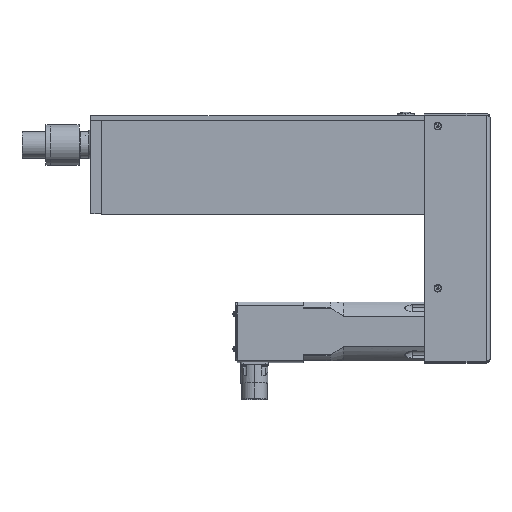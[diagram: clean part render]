
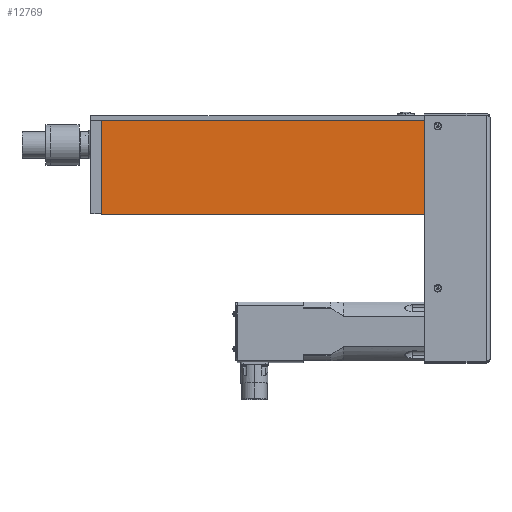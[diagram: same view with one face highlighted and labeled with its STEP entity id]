
A CAD part, top view. The second image highlights one B-rep face of the part: STEP entity #12769.
In plain terms, the highlighted planar face has unit normal (0, 0, 1).
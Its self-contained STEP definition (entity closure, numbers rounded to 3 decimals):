
#215 = LINE ( 'NONE', #13817, #32851 ) ;
#359 = VECTOR ( 'NONE', #21181, 1000. ) ;
#5752 = EDGE_CURVE ( 'NONE', #12536, #52321, #215, .T. ) ;
#6060 = DIRECTION ( 'NONE',  ( -1., 0., 0. ) ) ;
#6205 = VECTOR ( 'NONE', #6060, 1000. ) ;
#8312 = DIRECTION ( 'NONE',  ( 0., -1., 0. ) ) ;
#12031 = ORIENTED_EDGE ( 'NONE', *, *, #49310, .T. ) ;
#12536 = VERTEX_POINT ( 'NONE', #41025 ) ;
#12769 = ADVANCED_FACE ( 'NONE', ( #19581 ), #30354, .F. ) ;
#13817 = CARTESIAN_POINT ( 'NONE',  ( -96.001, -28.121, 45.682 ) ) ;
#14994 = ORIENTED_EDGE ( 'NONE', *, *, #5752, .T. ) ;
#16263 = CARTESIAN_POINT ( 'NONE',  ( -96.001, -28.121, 45.682 ) ) ;
#16875 = DIRECTION ( 'NONE',  ( 0., 1., 0. ) ) ;
#19581 = FACE_OUTER_BOUND ( 'NONE', #35933, .T. ) ;
#20597 = CARTESIAN_POINT ( 'NONE',  ( -96.001, 59.379, 45.682 ) ) ;
#20657 = LINE ( 'NONE', #44698, #6205 ) ;
#21181 = DIRECTION ( 'NONE',  ( 1., 0., 0. ) ) ;
#21379 = CARTESIAN_POINT ( 'NONE',  ( -96.001, -28.121, 45.682 ) ) ;
#22203 = VERTEX_POINT ( 'NONE', #48309 ) ;
#30354 = PLANE ( 'NONE',  #53576 ) ;
#31288 = CARTESIAN_POINT ( 'NONE',  ( 206.999, -28.121, 45.682 ) ) ;
#32851 = VECTOR ( 'NONE', #8312, 1000. ) ;
#33630 = VERTEX_POINT ( 'NONE', #62081 ) ;
#33810 = LINE ( 'NONE', #21379, #359 ) ;
#35008 = LINE ( 'NONE', #31288, #42666 ) ;
#35221 = DIRECTION ( 'NONE',  ( 0., 0., -1. ) ) ;
#35427 = DIRECTION ( 'NONE',  ( -1., 0., 0. ) ) ;
#35933 = EDGE_LOOP ( 'NONE', ( #14994, #55979, #56898, #12031 ) ) ;
#37898 = EDGE_CURVE ( 'NONE', #52321, #22203, #33810, .T. ) ;
#41025 = CARTESIAN_POINT ( 'NONE',  ( -96.001, 59.379, 45.682 ) ) ;
#42666 = VECTOR ( 'NONE', #16875, 1000. ) ;
#44698 = CARTESIAN_POINT ( 'NONE',  ( -96.001, 59.379, 45.682 ) ) ;
#48309 = CARTESIAN_POINT ( 'NONE',  ( 206.999, -28.121, 45.682 ) ) ;
#49310 = EDGE_CURVE ( 'NONE', #33630, #12536, #20657, .T. ) ;
#49515 = EDGE_CURVE ( 'NONE', #22203, #33630, #35008, .T. ) ;
#52321 = VERTEX_POINT ( 'NONE', #16263 ) ;
#53576 = AXIS2_PLACEMENT_3D ( 'NONE', #20597, #35221, #35427 ) ;
#55979 = ORIENTED_EDGE ( 'NONE', *, *, #37898, .T. ) ;
#56898 = ORIENTED_EDGE ( 'NONE', *, *, #49515, .T. ) ;
#62081 = CARTESIAN_POINT ( 'NONE',  ( 206.999, 59.379, 45.682 ) ) ;
